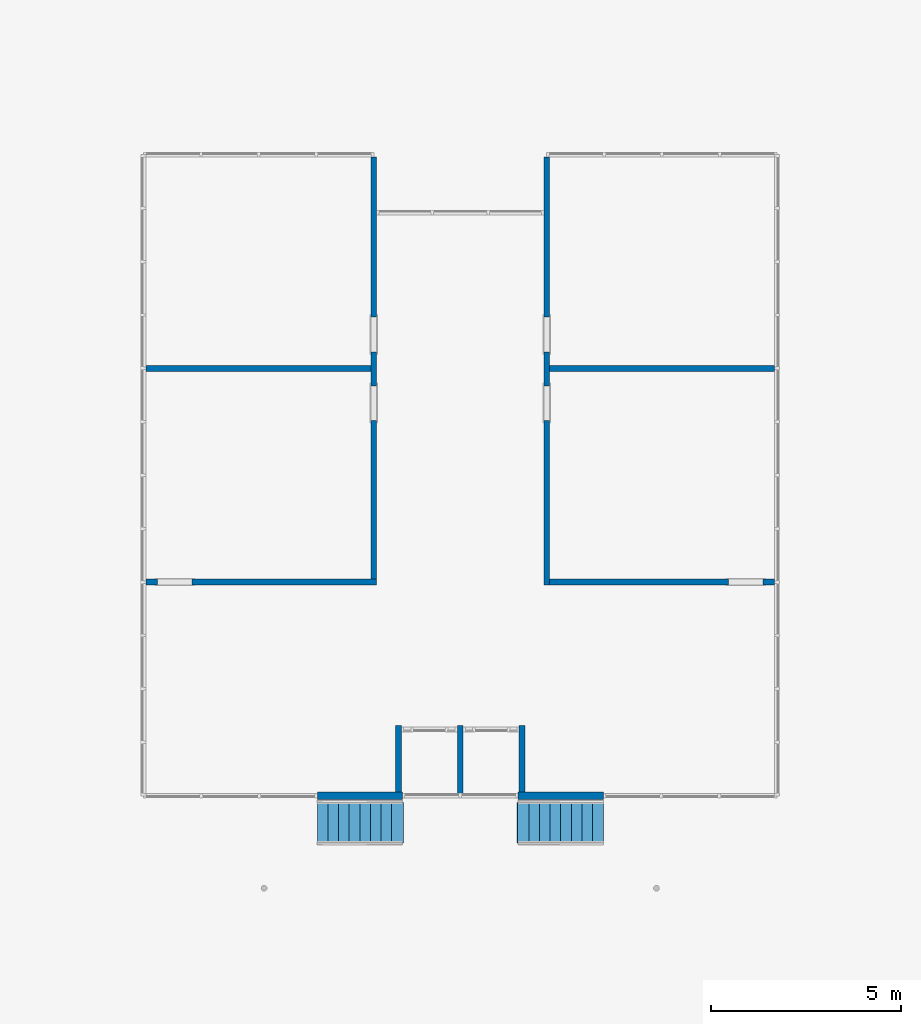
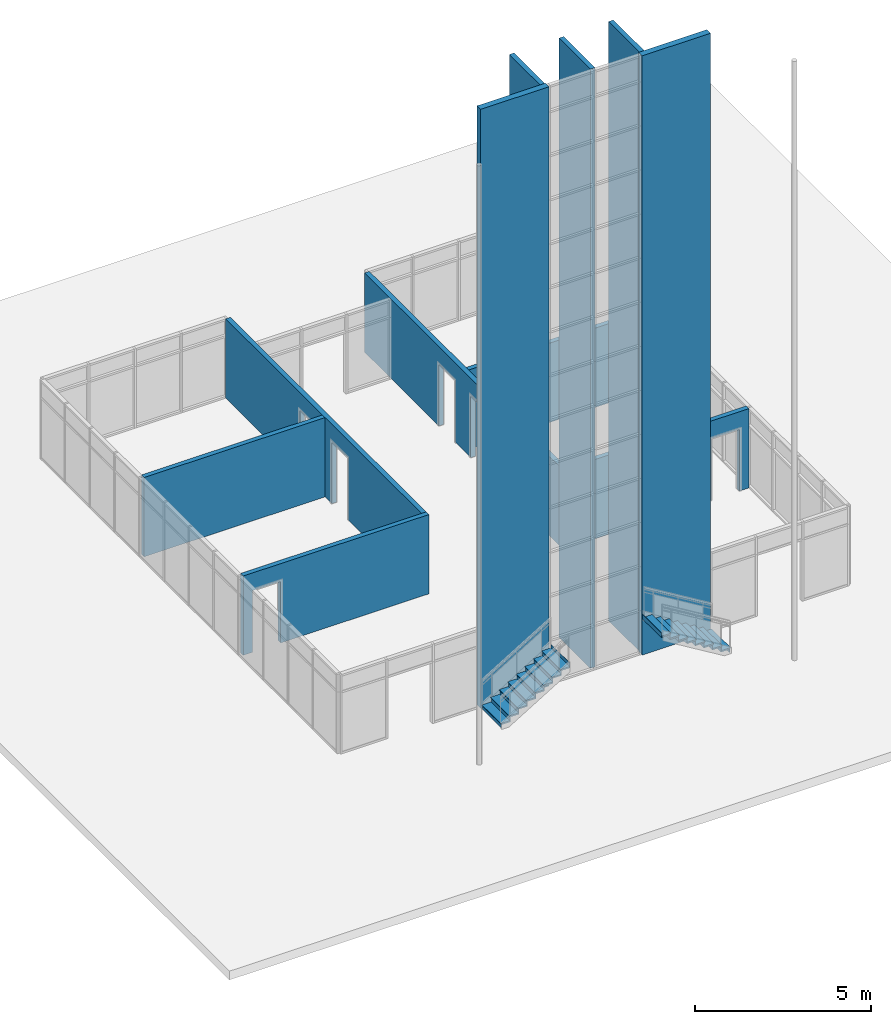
# One storey, part 10 of 12: 11 walls, 2 stair flights, 6 openings, 2 elements without a shape of their own.
"""IFC2X3 building model written with IfcOpenShell, lengths in feet."""

from ifc_helpers import new_model, entity, si_unit, converted_unit, derived_unit, direction, frame, frame_2d, origin, origin_2d_with_axis, place, context, subcontext, project, spatial, polyline, rectangle, outline, extrude, material, layer, layer_set, layer_usage, type_object, element, aggregate, save


model = new_model("IFC2X3")

# Units and contexts
model_context = context("Model", 3, precision=0.0001, world=origin(), true_north=direction((6.12303176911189e-17, 1.0)))
body_context = subcontext(model_context, "Body", "Model", "MODEL_VIEW")
ifc_project = project(units=[converted_unit("LENGTHUNIT", "FOOT", entity("IfcRatioMeasure", 0.3048), si_unit("LENGTHUNIT", "METRE"), dimensions=[1, 0, 0, 0, 0, 0, 0]), converted_unit("AREAUNIT", "SQUARE FOOT", entity("IfcRatioMeasure", 0.09290304), si_unit("AREAUNIT", "SQUARE_METRE"), dimensions=[2, 0, 0, 0, 0, 0, 0]), converted_unit("VOLUMEUNIT", "CUBIC FOOT", entity("IfcRatioMeasure", 0.028316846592), si_unit("VOLUMEUNIT", "CUBIC_METRE"), dimensions=[3, 0, 0, 0, 0, 0, 0]), converted_unit("PLANEANGLEUNIT", "DEGREE", entity("IfcRatioMeasure", 0.0174532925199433), si_unit("PLANEANGLEUNIT", "RADIAN"), dimensions=[0, 0, 0, 0, 0, 0, 0]), si_unit("MASSUNIT", "GRAM", prefix="KILO"), derived_unit("MASSDENSITYUNIT", [(si_unit("MASSUNIT", "GRAM", prefix="KILO"), 1), (si_unit("LENGTHUNIT", "METRE"), -3)]), si_unit("TIMEUNIT", "SECOND"), si_unit("FREQUENCYUNIT", "HERTZ"), si_unit("THERMODYNAMICTEMPERATUREUNIT", "DEGREE_CELSIUS"), derived_unit("THERMALTRANSMITTANCEUNIT", [(si_unit("MASSUNIT", "GRAM", prefix="KILO"), 1), (si_unit("THERMODYNAMICTEMPERATUREUNIT", "KELVIN"), -1), (si_unit("TIMEUNIT", "SECOND"), -3)]), derived_unit("VOLUMETRICFLOWRATEUNIT", [(si_unit("LENGTHUNIT", "METRE"), 3), (si_unit("TIMEUNIT", "SECOND"), -1)]), si_unit("ELECTRICCURRENTUNIT", "AMPERE"), si_unit("ELECTRICVOLTAGEUNIT", "VOLT"), si_unit("POWERUNIT", "WATT"), si_unit("FORCEUNIT", "NEWTON"), si_unit("ILLUMINANCEUNIT", "LUX"), si_unit("LUMINOUSFLUXUNIT", "LUMEN"), si_unit("LUMINOUSINTENSITYUNIT", "CANDELA"), derived_unit("USERDEFINED", [(si_unit("MASSUNIT", "GRAM", prefix="KILO"), -1), (si_unit("LENGTHUNIT", "METRE"), -2), (si_unit("TIMEUNIT", "SECOND"), 3), (si_unit("LUMINOUSFLUXUNIT", "LUMEN"), 1)]), derived_unit("LINEARVELOCITYUNIT", [(si_unit("LENGTHUNIT", "METRE"), 1), (si_unit("TIMEUNIT", "SECOND"), -1)]), si_unit("PRESSUREUNIT", "PASCAL"), derived_unit("USERDEFINED", [(si_unit("LENGTHUNIT", "METRE"), -2), (si_unit("MASSUNIT", "GRAM", prefix="KILO"), 1), (si_unit("TIMEUNIT", "SECOND"), -2)])], contexts=[model_context])

# Site, building, storey
site_placement = place(None, origin())
site = spatial("IfcSite", under=ifc_project, at=site_placement, Name="Default", CompositionType="ELEMENT")
building_placement = place(site_placement, origin())
building = spatial("IfcBuilding", under=site, at=building_placement, CompositionType="ELEMENT")
storey_placement = place(building_placement, origin())
storey = spatial("IfcBuildingStorey", under=building, at=storey_placement, Name="Level 1", CompositionType="ELEMENT", Elevation=0.0)

# Walls
ifc_material = material(Name="Default Wall")
ifc_layer_1 = layer(ifc_material, 0.666666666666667)
ifc_layer_set_1 = layer_set([ifc_layer_1], Name="Basic Wall:Generic - 8\"")
ifc_layer_usage_1 = layer_usage(ifc_layer_set_1, "AXIS2", "NEGATIVE", 0.333333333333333)
wall_type_1 = type_object("IfcWallType", Name="Basic Wall:Generic - 8\"", PredefinedType="STANDARD", material=ifc_layer_set_1)
wall_1_placement = place(storey_placement, frame((-46.3251627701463, -6.94114126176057, 0.0)))
element("IfcWallStandardCase", 1, at=wall_1_placement, inside=storey, type_object=wall_type_1, material=ifc_layer_usage_1, Name="Basic Wall:Generic - 8\"", ObjectType="Basic Wall:Generic - 8\":249", context=body_context, shape_type="SweptSolid", body=[
    extrude(rectangle(XDim=7.33333333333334, YDim=0.666666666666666, at=frame_2d((3.66666666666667, 0.0), x_axis=(-1.0, 0.0))), origin(), (0.0, 0.0, 1.0), 68.0),
])
ifc_layer_usage_2 = layer_usage(ifc_layer_set_1, "AXIS2", "NEGATIVE", 0.333333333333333)
wall_2_placement = place(storey_placement, frame((-28.9918294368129, -6.94114126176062, 0.0)))
element("IfcWallStandardCase", 2, at=wall_2_placement, inside=storey, type_object=wall_type_1, material=ifc_layer_usage_2, Name="Basic Wall:Generic - 8\"", ObjectType="Basic Wall:Generic - 8\":249", context=body_context, shape_type="SweptSolid", body=[
    extrude(rectangle(XDim=7.33333333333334, YDim=0.666666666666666, at=frame_2d((3.66666666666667, 0.0), x_axis=(-1.0, 0.0))), origin(), (0.0, 0.0, 1.0), 68.0),
])
ifc_layer_2 = layer(ifc_material, 0.5)
ifc_layer_set_2 = layer_set([ifc_layer_2], Name="Basic Wall:Generic - 6\"")
ifc_layer_usage_3 = layer_usage(ifc_layer_set_2, "AXIS2", "NEGATIVE", 0.25)
wall_type_2 = type_object("IfcWallType", Name="Basic Wall:Generic - 6\"", PredefinedType="STANDARD", material=ifc_layer_set_2)
wall_3_placement = place(storey_placement, frame((-33.9918294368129, -6.73280792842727, 0.0), z_axis=(0.0, 0.0, 1.0), x_axis=(0.0, 1.0, 0.0)))
element("IfcWallStandardCase", 3, at=wall_3_placement, inside=storey, type_object=wall_type_2, material=ifc_layer_usage_3, Name="Basic Wall:Generic - 6\"", ObjectType="Basic Wall:Generic - 6\":219", context=body_context, shape_type="SweptSolid", body=[
    extrude(rectangle(XDim=5.83333333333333, YDim=0.5, at=frame_2d((2.91666666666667, 6.10622663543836e-16), x_axis=(-1.0, 0.0))), origin(), (0.0, 0.0, 1.0), 68.0),
])
ifc_layer_usage_4 = layer_usage(ifc_layer_set_2, "AXIS2", "NEGATIVE", 0.25)
wall_4_placement = place(storey_placement, frame((-39.3251627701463, -6.60780792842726, 0.0), z_axis=(0.0, 0.0, 1.0), x_axis=(0.0, 1.0, 0.0)))
element("IfcWallStandardCase", 4, at=wall_4_placement, inside=storey, type_object=wall_type_2, material=ifc_layer_usage_4, Name="Basic Wall:Generic - 6\"", ObjectType="Basic Wall:Generic - 6\":219", context=body_context, shape_type="SweptSolid", body=[
    extrude(rectangle(XDim=5.70833333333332, YDim=0.5, at=frame_2d((2.85416666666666, 1.38777878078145e-16), x_axis=(-1.0, 0.0))), origin(), (0.0, 0.0, 1.0), 68.0),
])
ifc_layer_usage_5 = layer_usage(ifc_layer_set_2, "AXIS2", "NEGATIVE", 0.25)
wall_5_placement = place(storey_placement, frame((-28.6584961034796, -6.60780792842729, 0.0), z_axis=(0.0, 0.0, 1.0), x_axis=(0.0, 1.0, 0.0)))
element("IfcWallStandardCase", 5, at=wall_5_placement, inside=storey, type_object=wall_type_2, material=ifc_layer_usage_5, Name="Basic Wall:Generic - 6\"", ObjectType="Basic Wall:Generic - 6\":219", context=body_context, shape_type="SweptSolid", body=[
    extrude(rectangle(XDim=5.70833333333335, YDim=0.5, at=frame_2d((2.85416666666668, 1.94289029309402e-16), x_axis=(-1.0, 0.0))), origin(), (0.0, 0.0, 1.0), 68.0),
])

# Wall, openings
ifc_layer_usage_6 = layer_usage(ifc_layer_set_2, "AXIS2", "NEGATIVE", 0.25)
wall_6_placement = place(storey_placement, frame((-41.4463748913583, 48.1421920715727, 0.0), z_axis=(0.0, 0.0, 1.0), x_axis=(0.0, -1.0, 0.0)))
wall_6 = element("IfcWallStandardCase", 6, at=wall_6_placement, inside=storey, type_object=wall_type_2, material=ifc_layer_usage_6, Name="Basic Wall:Generic - 6\"", ObjectType="Basic Wall:Generic - 6\":219", context=body_context, shape_type="SweptSolid", body=[
    extrude(rectangle(XDim=36.4027777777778, YDim=0.5, at=frame_2d((18.2013888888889, 7.49400541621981e-16), x_axis=(-1.0, 0.0))), origin(), (0.0, 0.0, 1.0), 9.0),
])
opening_1_placement = place(wall_6_placement, origin())
element("IfcOpeningElement", 7, at=opening_1_placement, cuts=wall_6, Name="Basic Wall:Generic - 6\"", ObjectType="Opening", context=body_context, shape_type="SweptSolid", body=[
    extrude(rectangle(XDim=7.0, YDim=3.0, at=origin_2d_with_axis()), frame((15.2916666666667, -4.74999999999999, 3.5), z_axis=(0.0, 1.0, 0.0), x_axis=(0.0, 0.0, -1.0)), (0.0, 0.0, 1.0), 10.0),
])
opening_2_placement = place(wall_6_placement, origin())
element("IfcOpeningElement", 8, at=opening_2_placement, cuts=wall_6, Name="Basic Wall:Generic - 6\"", ObjectType="Opening", context=body_context, shape_type="SweptSolid", body=[
    extrude(rectangle(XDim=7.0, YDim=3.0, at=origin_2d_with_axis()), frame((21.2222222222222, -4.75, 3.5), z_axis=(0.0, 1.0, 0.0), x_axis=(0.0, 0.0, -1.0)), (0.0, 0.0, 1.0), 10.0),
])

ifc_layer_usage_7 = layer_usage(ifc_layer_set_2, "AXIS2", "NEGATIVE", 0.25)
wall_7_placement = place(storey_placement, frame((-26.5372839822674, 48.1421920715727, 0.0), z_axis=(0.0, 0.0, 1.0), x_axis=(0.0, -1.0, 0.0)))
wall_7 = element("IfcWallStandardCase", 9, at=wall_7_placement, inside=storey, type_object=wall_type_2, material=ifc_layer_usage_7, Name="Basic Wall:Generic - 6\"", ObjectType="Basic Wall:Generic - 6\":219", context=body_context, shape_type="SweptSolid", body=[
    extrude(rectangle(XDim=36.9027777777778, YDim=0.5, at=frame_2d((18.4513888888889, -6.66133814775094e-16), x_axis=(-1.0, 0.0))), origin(), (0.0, 0.0, 1.0), 9.0),
])
opening_3_placement = place(wall_7_placement, origin())
element("IfcOpeningElement", 10, at=opening_3_placement, cuts=wall_7, Name="Basic Wall:Generic - 6\"", ObjectType="Opening", context=body_context, shape_type="SweptSolid", body=[
    extrude(rectangle(XDim=7.0, YDim=3.0, at=origin_2d_with_axis()), frame((21.2222222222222, -4.75, 3.5), z_axis=(0.0, 1.0, 0.0), x_axis=(0.0, 0.0, -1.0)), (0.0, 0.0, 1.0), 10.0),
])
opening_4_placement = place(wall_7_placement, origin())
element("IfcOpeningElement", 11, at=opening_4_placement, cuts=wall_7, Name="Basic Wall:Generic - 6\"", ObjectType="Opening", context=body_context, shape_type="SweptSolid", body=[
    extrude(rectangle(XDim=7.0, YDim=3.0, at=frame_2d((0.0, 0.0), x_axis=(0.0, 1.0))), frame((15.2916666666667, -5.25, 3.5), z_axis=(0.0, 1.0, 0.0), x_axis=(1.0, 0.0, 0.0)), (0.0, 0.0, 1.0), 10.0),
])

# Walls
ifc_layer_usage_8 = layer_usage(ifc_layer_set_2, "AXIS2", "NEGATIVE", 0.25)
wall_8_placement = place(storey_placement, frame((-6.86682943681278, 29.9199698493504, 0.0), z_axis=(0.0, 0.0, 1.0), x_axis=(-1.0, 0.0, 0.0)))
element("IfcWallStandardCase", 12, at=wall_8_placement, inside=storey, type_object=wall_type_2, material=ifc_layer_usage_8, Name="Basic Wall:Generic - 6\"", ObjectType="Basic Wall:Generic - 6\":219", context=body_context, shape_type="SweptSolid", body=[
    extrude(rectangle(XDim=19.4204545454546, YDim=0.5, at=frame_2d((9.7102272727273, -4.02455846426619e-16), x_axis=(-1.0, 0.0))), origin(), (0.0, 0.0, 1.0), 9.0),
])
ifc_layer_usage_9 = layer_usage(ifc_layer_set_2, "AXIS2", "NEGATIVE", 0.25)
wall_9_placement = place(storey_placement, frame((-41.6963748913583, 29.9199698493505, 0.0), z_axis=(0.0, 0.0, 1.0), x_axis=(-1.0, 0.0, 0.0)))
element("IfcWallStandardCase", 13, at=wall_9_placement, inside=storey, type_object=wall_type_2, material=ifc_layer_usage_9, Name="Basic Wall:Generic - 6\"", ObjectType="Basic Wall:Generic - 6\":219", context=body_context, shape_type="SweptSolid", body=[
    extrude(rectangle(XDim=19.4204545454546, YDim=0.5, at=frame_2d((9.71022727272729, -4.02455846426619e-16), x_axis=(-1.0, 0.0))), origin(), (0.0, 0.0, 1.0), 9.0),
])

# Wall, opening
ifc_layer_usage_10 = layer_usage(ifc_layer_set_2, "AXIS2", "NEGATIVE", 0.25)
wall_10_placement = place(storey_placement, frame((-61.1168294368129, 11.489414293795, 0.0)))
wall_10 = element("IfcWallStandardCase", 14, at=wall_10_placement, inside=storey, type_object=wall_type_2, material=ifc_layer_usage_10, Name="Basic Wall:Generic - 6\"", ObjectType="Basic Wall:Generic - 6\":219", context=body_context, shape_type="SweptSolid", body=[
    extrude(rectangle(XDim=19.9204545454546, YDim=0.5, at=frame_2d((9.96022727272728, 4.16333634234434e-16), x_axis=(-1.0, 0.0))), origin(), (0.0, 0.0, 1.0), 9.0),
])
opening_5_placement = place(wall_10_placement, origin())
element("IfcOpeningElement", 15, at=opening_5_placement, cuts=wall_10, Name="Basic Wall:Generic - 6\"", ObjectType="Opening", context=body_context, shape_type="SweptSolid", body=[
    extrude(rectangle(XDim=7.0, YDim=3.0, at=origin_2d_with_axis()), frame((2.50000000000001, -4.75, 3.5), z_axis=(0.0, 1.0, 0.0), x_axis=(0.0, 0.0, -1.0)), (0.0, 0.0, 1.0), 10.0),
])

ifc_layer_usage_11 = layer_usage(ifc_layer_set_2, "AXIS2", "NEGATIVE", 0.25)
wall_11_placement = place(storey_placement, frame((-6.86682943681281, 11.4894142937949, 0.0), z_axis=(0.0, 0.0, 1.0), x_axis=(-1.0, 0.0, 0.0)))
wall_11 = element("IfcWallStandardCase", 16, at=wall_11_placement, inside=storey, type_object=wall_type_2, material=ifc_layer_usage_11, Name="Basic Wall:Generic - 6\"", ObjectType="Basic Wall:Generic - 6\":219", context=body_context, shape_type="SweptSolid", body=[
    extrude(rectangle(XDim=19.4204545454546, YDim=0.5, at=frame_2d((9.7102272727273, -3.19189119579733e-16), x_axis=(-1.0, 0.0))), origin(), (0.0, 0.0, 1.0), 9.0),
])
opening_6_placement = place(wall_11_placement, origin())
element("IfcOpeningElement", 17, at=opening_6_placement, cuts=wall_11, Name="Basic Wall:Generic - 6\"", ObjectType="Opening", context=body_context, shape_type="SweptSolid", body=[
    extrude(rectangle(XDim=7.0, YDim=3.0, at=frame_2d((0.0, -8.88178419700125e-16), x_axis=(1.0, 0.0))), frame((2.5, -4.75, 3.5), z_axis=(0.0, 1.0, 0.0), x_axis=(0.0, 0.0, -1.0)), (0.0, 0.0, 1.0), 10.0),
])

# Stair, stair flight
stair_1_placement = place(storey_placement, origin())
stair_1 = element("IfcStair", 18, at=stair_1_placement, inside=storey, Name="Assembled Stair:Stair", ObjectType="Assembled Stair:7\" max riser 11\" tread", ShapeType="NOTDEFINED")
stair_flight_1_placement = place(stair_1_placement, origin())
stair_flight_1 = element("IfcStairFlight", 19, at=stair_flight_1_placement, Name="Assembled Stair:Stair:188699 Run 1", ObjectType="Assembled Stair:7\" max riser 11\" tread", NumberOfRiser=9, NumberOfTreads=8, RiserHeight=0.555555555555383, TreadLength=0.916666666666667, context=body_context, shape_type="SweptSolid", body=[
    extrude(outline(polyline([(-0.0902777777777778, -0.638888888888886), (0.0763888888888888, -0.638888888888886), (0.0763888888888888, 0.277777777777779), (0.0555555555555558, 0.277777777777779), (-0.0277777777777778, 0.361111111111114), (-0.0902777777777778, 0.361111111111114), (-0.0902777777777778, -0.638888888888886)])), frame((-45.9640516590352, -11.0036412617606, 0.465277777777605), z_axis=(0.0, 1.0, 0.0), x_axis=(0.0, 0.0, -1.0)), (0.0, 0.0, 1.0), 3.5),
    extrude(rectangle(XDim=3.5, YDim=0.0208333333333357, at=frame_2d((0.0, -3.5527136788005e-15), x_axis=(1.0, 0.0))), frame((-46.2314127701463, -9.25364126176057, 0.0), z_axis=(0.0, 0.0, 1.0), x_axis=(0.0, 1.0, 0.0)), (0.0, 0.0, 1.0), 0.388888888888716),
    extrude(rectangle(XDim=3.5, YDim=0.0208333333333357, at=frame_2d((0.0, 3.5527136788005e-15), x_axis=(1.0, 0.0))), frame((-45.3147461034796, -9.25364126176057, 0.388888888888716), z_axis=(0.0, 0.0, 1.0), x_axis=(0.0, 1.0, 0.0)), (0.0, 0.0, 1.0), 0.555555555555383),
    extrude(outline(polyline([(-0.0902777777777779, -0.6388888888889), (0.0763888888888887, -0.6388888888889), (0.0763888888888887, 0.277777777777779), (0.0555555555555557, 0.277777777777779), (-0.0277777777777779, 0.361111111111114), (-0.0902777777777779, 0.361111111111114), (-0.0902777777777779, -0.6388888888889)])), frame((-45.0473849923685, -11.0036412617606, 1.02083333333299), z_axis=(0.0, 1.0, 0.0), x_axis=(0.0, 0.0, -1.0)), (0.0, 0.0, 1.0), 3.5),
    extrude(rectangle(XDim=3.5, YDim=0.0208333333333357, at=frame_2d((0.0, -3.5527136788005e-15), x_axis=(1.0, 0.0))), frame((-44.3980794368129, -9.25364126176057, 0.944444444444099), z_axis=(0.0, 0.0, 1.0), x_axis=(0.0, 1.0, 0.0)), (0.0, 0.0, 1.0), 0.555555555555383),
    extrude(outline(polyline([(-0.0902777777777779, -0.6388888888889), (0.0763888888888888, -0.6388888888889), (0.0763888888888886, 0.277777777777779), (0.0555555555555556, 0.277777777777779), (-0.0277777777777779, 0.361111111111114), (-0.0902777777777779, 0.361111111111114), (-0.0902777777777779, -0.6388888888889)])), frame((-44.1307183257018, -11.0036412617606, 1.57638888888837), z_axis=(0.0, 1.0, 0.0), x_axis=(0.0, 0.0, -1.0)), (0.0, 0.0, 1.0), 3.5),
    extrude(rectangle(XDim=3.5, YDim=0.0208333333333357, at=frame_2d((0.0, -3.5527136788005e-15), x_axis=(1.0, 0.0))), frame((-43.4814127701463, -9.25364126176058, 1.49999999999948), z_axis=(0.0, 0.0, 1.0), x_axis=(0.0, 1.0, 0.0)), (0.0, 0.0, 1.0), 0.555555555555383),
    extrude(outline(polyline([(-0.0902777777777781, -0.638888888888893), (0.0763888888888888, -0.638888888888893), (0.0763888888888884, 0.277777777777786), (0.0555555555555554, 0.277777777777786), (-0.0277777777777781, 0.361111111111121), (-0.0902777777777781, 0.361111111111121), (-0.0902777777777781, -0.638888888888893)])), frame((-43.2140516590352, -11.0036412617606, 2.13194444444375), z_axis=(0.0, 1.0, 0.0), x_axis=(0.0, 0.0, -1.0)), (0.0, 0.0, 1.0), 3.5),
    extrude(rectangle(XDim=3.5, YDim=0.0208333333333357, at=frame_2d((0.0, -3.5527136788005e-15), x_axis=(1.0, 0.0))), frame((-42.5647461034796, -9.25364126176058, 2.05555555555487), z_axis=(0.0, 0.0, 1.0), x_axis=(0.0, 1.0, 0.0)), (0.0, 0.0, 1.0), 0.555555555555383),
    extrude(outline(polyline([(-0.0902777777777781, -0.638888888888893), (0.0763888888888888, -0.638888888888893), (0.0763888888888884, 0.277777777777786), (0.0555555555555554, 0.277777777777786), (-0.0277777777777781, 0.361111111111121), (-0.0902777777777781, 0.361111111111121), (-0.0902777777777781, -0.638888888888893)])), frame((-42.2973849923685, -11.0036412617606, 2.68749999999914), z_axis=(0.0, 1.0, 0.0), x_axis=(0.0, 0.0, -1.0)), (0.0, 0.0, 1.0), 3.5),
    extrude(rectangle(XDim=3.5, YDim=0.0208333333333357, at=frame_2d((0.0, -3.5527136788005e-15), x_axis=(1.0, 0.0))), frame((-41.6480794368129, -9.25364126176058, 2.61111111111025), z_axis=(0.0, 0.0, 1.0), x_axis=(0.0, 1.0, 0.0)), (0.0, 0.0, 1.0), 0.555555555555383),
    extrude(outline(polyline([(-0.0902777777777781, -0.6388888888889), (0.0763888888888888, -0.6388888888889), (0.0763888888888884, 0.277777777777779), (0.0555555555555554, 0.277777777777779), (-0.0277777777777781, 0.361111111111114), (-0.0902777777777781, 0.361111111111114), (-0.0902777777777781, -0.6388888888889)])), frame((-41.3807183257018, -11.0036412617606, 3.24305555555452), z_axis=(0.0, 1.0, 0.0), x_axis=(0.0, 0.0, -1.0)), (0.0, 0.0, 1.0), 3.5),
    extrude(rectangle(XDim=3.5, YDim=0.0208333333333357, at=frame_2d((0.0, -3.5527136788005e-15), x_axis=(1.0, 0.0))), frame((-40.7314127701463, -9.25364126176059, 3.16666666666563), z_axis=(0.0, 0.0, 1.0), x_axis=(0.0, 1.0, 0.0)), (0.0, 0.0, 1.0), 0.555555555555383),
    extrude(outline(polyline([(-0.0902777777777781, -0.638888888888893), (0.0763888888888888, -0.638888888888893), (0.0763888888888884, 0.277777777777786), (0.0555555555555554, 0.277777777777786), (-0.0277777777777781, 0.361111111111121), (-0.0902777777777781, 0.361111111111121), (-0.0902777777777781, -0.638888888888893)])), frame((-40.4640516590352, -11.0036412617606, 3.7986111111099), z_axis=(0.0, 1.0, 0.0), x_axis=(0.0, 0.0, -1.0)), (0.0, 0.0, 1.0), 3.5),
    extrude(rectangle(XDim=3.5, YDim=0.0208333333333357, at=frame_2d((0.0, -3.5527136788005e-15), x_axis=(1.0, 0.0))), frame((-39.8147461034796, -9.25364126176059, 3.72222222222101), z_axis=(0.0, 0.0, 1.0), x_axis=(0.0, 1.0, 0.0)), (0.0, 0.0, 1.0), 0.555555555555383),
    extrude(rectangle(XDim=3.5, YDim=0.0208333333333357, at=frame_2d((0.0, -3.5527136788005e-15), x_axis=(1.0, 0.0))), frame((-38.8980794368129, -9.25364126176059, 4.2777777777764), z_axis=(0.0, 0.0, 1.0), x_axis=(0.0, 1.0, 0.0)), (0.0, 0.0, 1.0), 0.555555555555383),
    extrude(outline(polyline([(-0.0902777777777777, -0.638888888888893), (0.0763888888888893, -0.638888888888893), (0.0763888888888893, 0.277777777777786), (0.0555555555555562, 0.277777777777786), (-0.0277777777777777, 0.361111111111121), (-0.0902777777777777, 0.361111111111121), (-0.0902777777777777, -0.638888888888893)])), frame((-39.5473849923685, -11.0036412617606, 4.35416666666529), z_axis=(0.0, 1.0, 0.0), x_axis=(0.0, 0.0, -1.0)), (0.0, 0.0, 1.0), 3.5),
])
aggregate(stair_1, [stair_flight_1])

stair_2_placement = place(storey_placement, origin())
stair_2 = element("IfcStair", 20, at=stair_2_placement, inside=storey, Name="Assembled Stair:Stair", ObjectType="Assembled Stair:7\" max riser 11\" tread", ShapeType="NOTDEFINED")
stair_flight_2_placement = place(stair_2_placement, origin())
stair_flight_2 = element("IfcStairFlight", 21, at=stair_flight_2_placement, Name="Assembled Stair:Stair:188782 Run 1", ObjectType="Assembled Stair:7\" max riser 11\" tread", NumberOfRiser=9, NumberOfTreads=8, RiserHeight=0.555555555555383, TreadLength=0.916666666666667, context=body_context, shape_type="SweptSolid", body=[
    extrude(outline(polyline([(-0.0902777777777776, -0.361111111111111), (-0.0277777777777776, -0.361111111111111), (0.0555555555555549, -0.277777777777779), (0.0763888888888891, -0.277777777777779), (0.0763888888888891, 0.638888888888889), (-0.0902777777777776, 0.638888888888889), (-0.0902777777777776, -0.361111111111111)])), frame((-22.0196072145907, -11.0036412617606, 0.465277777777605), z_axis=(0.0, 1.0, 0.0), x_axis=(0.0, 0.0, -1.0)), (0.0, 0.0, 1.0), 3.5),
    extrude(rectangle(XDim=3.5, YDim=0.0208333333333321, at=frame_2d((0.0, 1.77635683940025e-15), x_axis=(1.0, 0.0))), frame((-21.7522461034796, -9.25364126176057, 0.0), z_axis=(0.0, 0.0, 1.0), x_axis=(0.0, -1.0, 0.0)), (0.0, 0.0, 1.0), 0.388888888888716),
    extrude(rectangle(XDim=3.5, YDim=0.0208333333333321, at=frame_2d((0.0, -1.77635683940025e-15), x_axis=(1.0, 0.0))), frame((-22.6689127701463, -9.25364126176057, 0.388888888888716), z_axis=(0.0, 0.0, 1.0), x_axis=(0.0, -1.0, 0.0)), (0.0, 0.0, 1.0), 0.555555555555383),
    extrude(outline(polyline([(-0.0902777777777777, -0.361111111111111), (-0.0277777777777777, -0.361111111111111), (0.0555555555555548, -0.277777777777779), (0.076388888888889, -0.277777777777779), (0.076388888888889, 0.638888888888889), (-0.0902777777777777, 0.638888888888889), (-0.0902777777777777, -0.361111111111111)])), frame((-22.9362738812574, -11.0036412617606, 1.02083333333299), z_axis=(0.0, 1.0, 0.0), x_axis=(0.0, 0.0, -1.0)), (0.0, 0.0, 1.0), 3.5),
    extrude(rectangle(XDim=3.5, YDim=0.0208333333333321, at=frame_2d((0.0, 1.77635683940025e-15), x_axis=(1.0, 0.0))), frame((-23.5855794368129, -9.25364126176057, 0.944444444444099), z_axis=(0.0, 0.0, 1.0), x_axis=(0.0, -1.0, 0.0)), (0.0, 0.0, 1.0), 0.555555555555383),
    extrude(outline(polyline([(-0.0902777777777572, -0.361111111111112), (-0.0277777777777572, -0.361111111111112), (0.0555555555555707, -0.277777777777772), (0.0763888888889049, -0.277777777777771), (0.0763888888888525, 0.638888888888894), (-0.090277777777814, 0.638888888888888), (-0.0902777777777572, -0.361111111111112)])), frame((-23.852940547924, -11.0036412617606, 1.57638888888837), z_axis=(0.0, 1.0, 0.0), x_axis=(0.0, 0.0, -1.0)), (0.0, 0.0, 1.0), 3.5),
    extrude(rectangle(XDim=3.5, YDim=0.0208333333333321, at=frame_2d((0.0, -1.77635683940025e-15), x_axis=(1.0, 0.0))), frame((-24.5022461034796, -9.25364126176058, 1.49999999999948), z_axis=(0.0, 0.0, 1.0), x_axis=(0.0, -1.0, 0.0)), (0.0, 0.0, 1.0), 0.555555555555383),
    extrude(outline(polyline([(-0.0902777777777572, -0.361111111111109), (-0.0277777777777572, -0.361111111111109), (0.0555555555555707, -0.277777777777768), (0.0763888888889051, -0.277777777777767), (0.0763888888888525, 0.638888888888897), (-0.090277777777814, 0.638888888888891), (-0.0902777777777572, -0.361111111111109)])), frame((-24.7696072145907, -11.0036412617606, 2.13194444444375), z_axis=(0.0, 1.0, 0.0), x_axis=(0.0, 0.0, -1.0)), (0.0, 0.0, 1.0), 3.5),
    extrude(rectangle(XDim=3.5, YDim=0.0208333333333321, at=frame_2d((0.0, -1.77635683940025e-15), x_axis=(1.0, 0.0))), frame((-25.4189127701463, -9.25364126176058, 2.05555555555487), z_axis=(0.0, 0.0, 1.0), x_axis=(0.0, -1.0, 0.0)), (0.0, 0.0, 1.0), 0.555555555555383),
    extrude(outline(polyline([(-0.0902777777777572, -0.361111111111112), (-0.0277777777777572, -0.361111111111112), (0.0555555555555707, -0.277777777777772), (0.0763888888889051, -0.277777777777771), (0.0763888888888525, 0.638888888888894), (-0.090277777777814, 0.638888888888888), (-0.0902777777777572, -0.361111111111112)])), frame((-25.6862738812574, -11.0036412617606, 2.68749999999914), z_axis=(0.0, 1.0, 0.0), x_axis=(0.0, 0.0, -1.0)), (0.0, 0.0, 1.0), 3.5),
    extrude(rectangle(XDim=3.5, YDim=0.0208333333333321, at=frame_2d((0.0, 1.77635683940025e-15), x_axis=(1.0, 0.0))), frame((-26.3355794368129, -9.25364126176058, 2.61111111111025), z_axis=(0.0, 0.0, 1.0), x_axis=(0.0, -1.0, 0.0)), (0.0, 0.0, 1.0), 0.555555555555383),
    extrude(outline(polyline([(-0.0902777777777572, -0.361111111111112), (-0.0277777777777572, -0.361111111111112), (0.0555555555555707, -0.277777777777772), (0.0763888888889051, -0.277777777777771), (0.0763888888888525, 0.638888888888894), (-0.090277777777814, 0.638888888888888), (-0.0902777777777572, -0.361111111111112)])), frame((-26.602940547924, -11.0036412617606, 3.24305555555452), z_axis=(0.0, 1.0, 0.0), x_axis=(0.0, 0.0, -1.0)), (0.0, 0.0, 1.0), 3.5),
    extrude(rectangle(XDim=3.5, YDim=0.0208333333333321, at=frame_2d((0.0, 1.77635683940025e-15), x_axis=(1.0, 0.0))), frame((-27.2522461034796, -9.25364126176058, 3.16666666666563), z_axis=(0.0, 0.0, 1.0), x_axis=(0.0, -1.0, 0.0)), (0.0, 0.0, 1.0), 0.555555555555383),
    extrude(outline(polyline([(-0.0902777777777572, -0.361111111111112), (-0.0277777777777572, -0.361111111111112), (0.0555555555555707, -0.277777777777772), (0.0763888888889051, -0.277777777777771), (0.0763888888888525, 0.638888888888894), (-0.090277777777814, 0.638888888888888), (-0.0902777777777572, -0.361111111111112)])), frame((-27.5196072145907, -11.0036412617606, 3.7986111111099), z_axis=(0.0, 1.0, 0.0), x_axis=(0.0, 0.0, -1.0)), (0.0, 0.0, 1.0), 3.5),
    extrude(rectangle(XDim=3.5, YDim=0.0208333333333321, at=frame_2d((0.0, -1.77635683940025e-15), x_axis=(1.0, 0.0))), frame((-28.1689127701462, -9.25364126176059, 3.72222222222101), z_axis=(0.0, 0.0, 1.0), x_axis=(0.0, -1.0, 0.0)), (0.0, 0.0, 1.0), 0.555555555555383),
    extrude(rectangle(XDim=3.5, YDim=0.0208333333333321, at=frame_2d((0.0, 1.77635683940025e-15), x_axis=(1.0, 0.0))), frame((-29.0855794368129, -9.25364126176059, 4.2777777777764), z_axis=(0.0, 0.0, 1.0), x_axis=(0.0, -1.0, 0.0)), (0.0, 0.0, 1.0), 0.555555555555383),
    extrude(outline(polyline([(-0.0902777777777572, -0.361111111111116), (-0.0277777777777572, -0.361111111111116), (0.0555555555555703, -0.277777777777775), (0.0763888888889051, -0.277777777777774), (0.076388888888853, 0.63888888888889), (-0.090277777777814, 0.638888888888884), (-0.0902777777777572, -0.361111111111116)])), frame((-28.4362738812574, -11.0036412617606, 4.35416666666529), z_axis=(0.0, 1.0, 0.0), x_axis=(0.0, 0.0, -1.0)), (0.0, 0.0, 1.0), 3.5),
])
aggregate(stair_2, [stair_flight_2])

save(model, "model.ifc")
